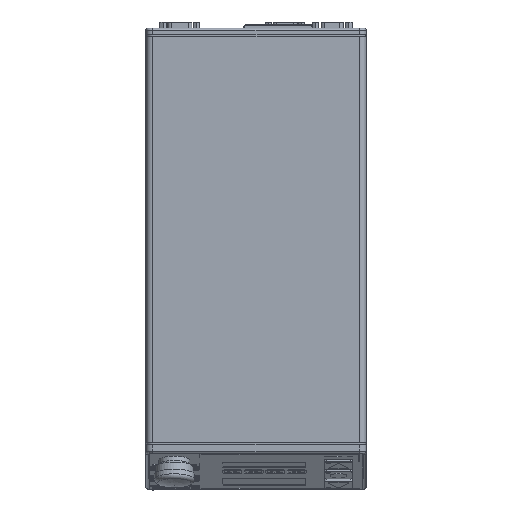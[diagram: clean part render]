
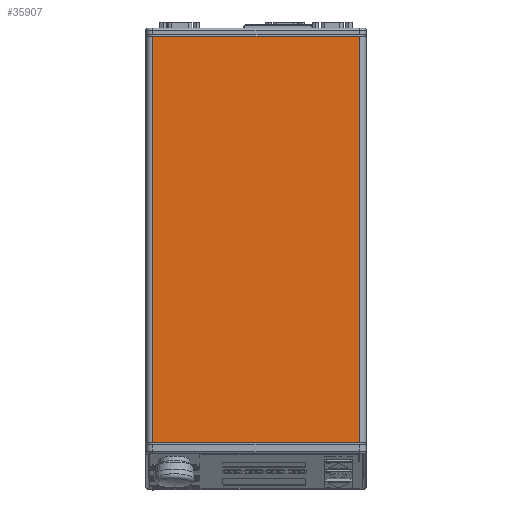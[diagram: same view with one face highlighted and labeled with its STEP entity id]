
A CAD part, top view. The second image highlights one B-rep face of the part: STEP entity #35907.
In plain terms, the highlighted planar face has unit normal (0, 0, 1).
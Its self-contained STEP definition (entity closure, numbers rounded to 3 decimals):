
#2314=PLANE('',#38543);
#4124=FACE_OUTER_BOUND('',#6281,.T.);
#6281=EDGE_LOOP('',(#31762,#31763,#31764,#31765));
#8394=LINE('',#60695,#11968);
#9813=LINE('',#65461,#13387);
#9814=LINE('',#65466,#13388);
#9823=LINE('',#65527,#13397);
#11968=VECTOR('',#43716,1.);
#13387=VECTOR('',#46679,1.);
#13388=VECTOR('',#46684,1.);
#13397=VECTOR('',#46753,1.);
#16652=VERTEX_POINT('',#60692);
#16653=VERTEX_POINT('',#60694);
#17778=VERTEX_POINT('',#65459);
#17780=VERTEX_POINT('',#65464);
#20961=EDGE_CURVE('',#16652,#16653,#8394,.T.);
#22614=EDGE_CURVE('',#16653,#17778,#9813,.T.);
#22616=EDGE_CURVE('',#16652,#17780,#9814,.T.);
#22646=EDGE_CURVE('',#17780,#17778,#9823,.T.);
#31762=ORIENTED_EDGE('',*,*,#22646,.T.);
#31763=ORIENTED_EDGE('',*,*,#22614,.F.);
#31764=ORIENTED_EDGE('',*,*,#20961,.F.);
#31765=ORIENTED_EDGE('',*,*,#22616,.T.);
#35907=ADVANCED_FACE('',(#4124),#2314,.F.);
#38543=AXIS2_PLACEMENT_3D('',#65526,#46751,#46752);
#43716=DIRECTION('',(-1.,0.,0.));
#46679=DIRECTION('',(0.,1.,0.));
#46684=DIRECTION('',(0.,1.,0.));
#46751=DIRECTION('center_axis',(0.,0.,-1.));
#46752=DIRECTION('ref_axis',(0.,-1.,0.));
#46753=DIRECTION('',(-1.,0.,0.));
#60692=CARTESIAN_POINT('',(27.641,37.336,3.7));
#60694=CARTESIAN_POINT('',(21.539,37.336,3.7));
#60695=CARTESIAN_POINT('',(27.641,37.336,3.7));
#65459=CARTESIAN_POINT('',(21.539,49.336,3.7));
#65461=CARTESIAN_POINT('',(21.539,37.336,3.7));
#65464=CARTESIAN_POINT('',(27.641,49.336,3.7));
#65466=CARTESIAN_POINT('',(27.641,37.336,3.7));
#65526=CARTESIAN_POINT('Origin',(22.092,49.184,3.7));
#65527=CARTESIAN_POINT('',(27.641,49.336,3.7));
